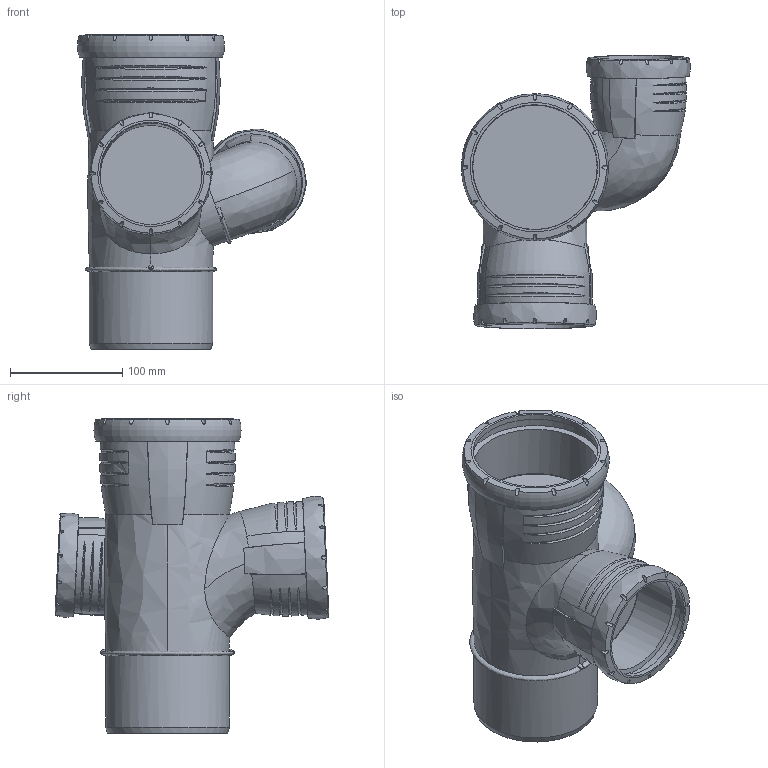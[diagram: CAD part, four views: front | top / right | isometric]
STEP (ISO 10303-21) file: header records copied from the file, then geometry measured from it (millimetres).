
FILE_DESCRIPTION(/* description */ (''),/* implementation_level */ '2;1');
FILE_NAME(/* name */ 'H:\Geberit-Teile\Export\SchachBogAbzw\stp\393554.stp',/* time_stamp */ '2017-11-13T12:37:15+01:00',/* author */ ('seihe2'),/* organization */ (''),/* preprocessor_version */ 'ST-DEVELOPER v15.2',/* originating_system */ 'Autodesk Inventor 2014',/* authorisation */ '');
FILE_SCHEMA (('AUTOMOTIVE_DESIGN { 1 0 10303 214 3 1 1 }'));
Length unit declared in the file: millimetre
Products named in the file (1): 393554
Bounding box: 203.97 x 243.28 x 279.9 mm (x, y, z)
Volume: 717291.1 mm3; surface area: 376586.5 mm2
Topology: 4 solids, 4 shells, 380 faces, 1019 edges, 631 vertices
Faces by surface type: bspline 238, cone 44, cylinder 31, plane 30, torus 25, sphere 12
Full cylindrical faces by diameter (mm): 75.9 x1, 76.2 x1, 85 x1, 90.632 x1, 90.9 x1, 91.2 x1, 100.2 x1, 101.2 x1, 110.2 x1, 110.732 x1, 111 x1, 111.3 x1, 121.5 x1
Entity records: 23270 total; most frequent: CARTESIAN_POINT 15251, ORIENTED_EDGE 1886, DIRECTION 1169, EDGE_CURVE 943, VERTEX_POINT 612, AXIS2_PLACEMENT_3D 521, B_SPLINE_CURVE_WITH_KNOTS 433, EDGE_LOOP 431
